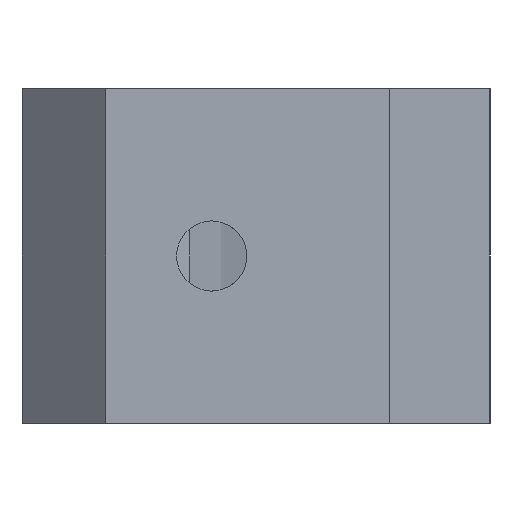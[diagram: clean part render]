
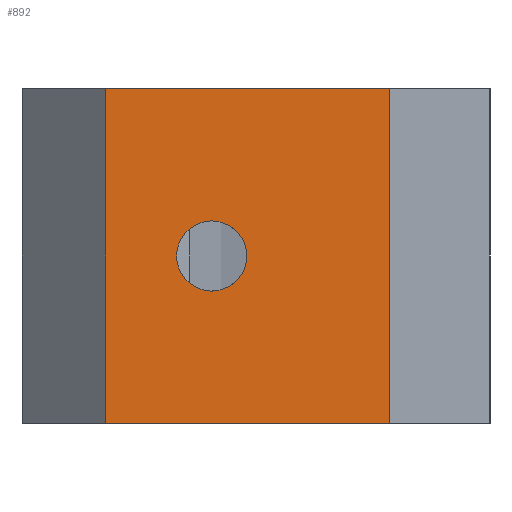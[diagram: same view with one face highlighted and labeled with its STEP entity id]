
A CAD part, left-side view. The second image highlights one B-rep face of the part: STEP entity #892.
In plain terms, the highlighted planar face has unit normal (-1, 0, 0).
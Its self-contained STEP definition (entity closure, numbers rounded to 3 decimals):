
#11 = ORIENTED_EDGE ( 'NONE', *, *, #727, .F. ) ;
#36 = CARTESIAN_POINT ( 'NONE',  ( -15., 14., -10. ) ) ;
#52 = CARTESIAN_POINT ( 'NONE',  ( -15., -8., 10. ) ) ;
#61 = CARTESIAN_POINT ( 'NONE',  ( -15., 9., -10. ) ) ;
#110 = CARTESIAN_POINT ( 'NONE',  ( -15., 2.65, 0. ) ) ;
#129 = VERTEX_POINT ( 'NONE', #468 ) ;
#138 = DIRECTION ( 'NONE',  ( 0., 0., -1. ) ) ;
#153 = CARTESIAN_POINT ( 'NONE',  ( -15., 14., -10. ) ) ;
#171 = CARTESIAN_POINT ( 'NONE',  ( -15., 9., 10. ) ) ;
#180 = EDGE_LOOP ( 'NONE', ( #909, #479, #426, #452 ) ) ;
#183 = ORIENTED_EDGE ( 'NONE', *, *, #277, .F. ) ;
#225 = DIRECTION ( 'NONE',  ( 1., 0., 0. ) ) ;
#229 = VECTOR ( 'NONE', #243, 1000. ) ;
#231 = FACE_BOUND ( 'NONE', #676, .T. ) ;
#235 = VERTEX_POINT ( 'NONE', #679 ) ;
#243 = DIRECTION ( 'NONE',  ( 0., 1., 0. ) ) ;
#254 = EDGE_CURVE ( 'NONE', #312, #842, #519, .T. ) ;
#277 = EDGE_CURVE ( 'NONE', #235, #129, #283, .T. ) ;
#283 = CIRCLE ( 'NONE', #715, 2.1 ) ;
#290 = DIRECTION ( 'NONE',  ( 0., 0., 1. ) ) ;
#292 = CIRCLE ( 'NONE', #617, 2.1 ) ;
#309 = AXIS2_PLACEMENT_3D ( 'NONE', #153, #225, #860 ) ;
#312 = VERTEX_POINT ( 'NONE', #380 ) ;
#330 = VERTEX_POINT ( 'NONE', #171 ) ;
#339 = CARTESIAN_POINT ( 'NONE',  ( -15., 14., 10. ) ) ;
#363 = DIRECTION ( 'NONE',  ( 0., 0., 1. ) ) ;
#372 = VERTEX_POINT ( 'NONE', #52 ) ;
#380 = CARTESIAN_POINT ( 'NONE',  ( -15., -8., -10. ) ) ;
#426 = ORIENTED_EDGE ( 'NONE', *, *, #254, .F. ) ;
#452 = ORIENTED_EDGE ( 'NONE', *, *, #764, .T. ) ;
#467 = VECTOR ( 'NONE', #613, 1000. ) ;
#468 = CARTESIAN_POINT ( 'NONE',  ( -15., 2.65, -2.1 ) ) ;
#479 = ORIENTED_EDGE ( 'NONE', *, *, #655, .T. ) ;
#502 = CARTESIAN_POINT ( 'NONE',  ( -15., -8., -10. ) ) ;
#518 = VECTOR ( 'NONE', #290, 1000. ) ;
#519 = LINE ( 'NONE', #36, #229 ) ;
#521 = FACE_OUTER_BOUND ( 'NONE', #180, .T. ) ;
#613 = DIRECTION ( 'NONE',  ( 0., 1., 0. ) ) ;
#617 = AXIS2_PLACEMENT_3D ( 'NONE', #651, #645, #363 ) ;
#620 = EDGE_CURVE ( 'NONE', #372, #330, #768, .T. ) ;
#645 = DIRECTION ( 'NONE',  ( -1., 0., 0. ) ) ;
#648 = LINE ( 'NONE', #502, #518 ) ;
#651 = CARTESIAN_POINT ( 'NONE',  ( -15., 2.65, 0. ) ) ;
#655 = EDGE_CURVE ( 'NONE', #330, #842, #771, .T. ) ;
#659 = PLANE ( 'NONE',  #309 ) ;
#676 = EDGE_LOOP ( 'NONE', ( #183, #11 ) ) ;
#679 = CARTESIAN_POINT ( 'NONE',  ( -15., 2.65, 2.1 ) ) ;
#715 = AXIS2_PLACEMENT_3D ( 'NONE', #110, #881, #805 ) ;
#727 = EDGE_CURVE ( 'NONE', #129, #235, #292, .T. ) ;
#764 = EDGE_CURVE ( 'NONE', #312, #372, #648, .T. ) ;
#768 = LINE ( 'NONE', #339, #467 ) ;
#771 = LINE ( 'NONE', #61, #786 ) ;
#786 = VECTOR ( 'NONE', #138, 1000. ) ;
#805 = DIRECTION ( 'NONE',  ( 0., 0., 1. ) ) ;
#842 = VERTEX_POINT ( 'NONE', #869 ) ;
#860 = DIRECTION ( 'NONE',  ( 0., 1., 0. ) ) ;
#869 = CARTESIAN_POINT ( 'NONE',  ( -15., 9., -10. ) ) ;
#881 = DIRECTION ( 'NONE',  ( -1., 0., 0. ) ) ;
#892 = ADVANCED_FACE ( 'NONE', ( #231, #521 ), #659, .F. ) ;
#909 = ORIENTED_EDGE ( 'NONE', *, *, #620, .T. ) ;
